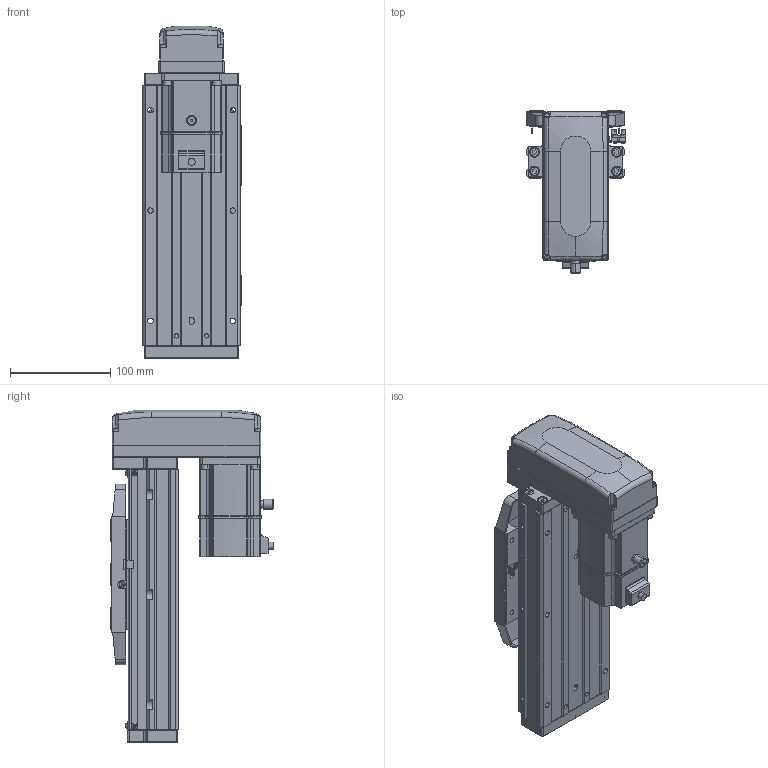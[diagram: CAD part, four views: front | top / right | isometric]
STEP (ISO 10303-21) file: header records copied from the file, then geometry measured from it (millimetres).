
FILE_DESCRIPTION (( 'STEP AP203' ), '1' );
FILE_NAME ('CTHA100-50-BM-M20-C4L.step', '2022-07-06T09:04:14', ( '微软用户' ), ( '微软中国' ), 'SwSTEP 2.0', 'SolidWorks 2020', '' );
FILE_SCHEMA (( 'CONFIG_CONTROL_DESIGN' ));
Length unit declared in the file: millimetre
Products named in the file (19): GB¨uT 70.2-M3¡Á5_M3¡Á6; CTHA60-016; CTHA86-033; EE_SX911P_R; _X2_4E0983F1_X0_200W_1; CTHA100-50-BM-M20-C4L; CTHA60-017; CTHA100-002; CTHA60-021; CTHA100-031; KTHA100-001_260; GBT77-2000 M3×3; CTHA86-030; KTHA100-004; GBT 70.1-M3℅6; GBT 70.3-M3℅6; KTHA100-005; GBT70.1 M5℅16; CTHA86-015-1_CTHA86-015-2
Assembly tree (64 placements, depth 2):
  CTHA100-50-BM-M20-C4L
    KTHA100-001_260
    KTHA100-004
    KTHA100-005
    GB¨uT 70.2-M3¡Á5_M3¡Á6  x10
    EE_SX911P_R  x3
    CTHA60-017  x3
    CTHA60-021  x2
    GBT77-2000 M3×3  x6
    GBT 70.1-M3℅6  x10
    GBT70.1 M5℅16  x14
    CTHA60-016  x2
    _X2_4E0983F1_X0_200W_1
    CTHA100-002
    CTHA100-031
    CTHA86-030  x2
    GBT 70.3-M3℅6  x4
    CTHA86-015-1_CTHA86-015-2
    CTHA86-033
Bounding box: 98.82 x 163.2 x 331 mm (x, y, z)
Volume: 1916097.9 mm3; surface area: 356189.5 mm2
Topology: 66 solids, 66 shells, 2569 faces, 6135 edges, 3796 vertices
Faces by surface type: plane 1332, cylinder 671, cone 343, torus 124, bspline 75, sphere 24
Entity records: 42762 total; most frequent: CARTESIAN_POINT 8475, DIRECTION 6544, ORIENTED_EDGE 6386, EDGE_CURVE 3193, AXIS2_PLACEMENT_3D 2237, VECTOR 2070, LINE 2070, VERTEX_POINT 2016
